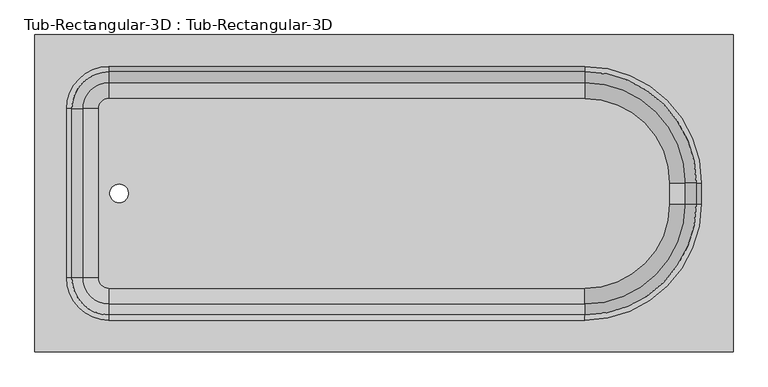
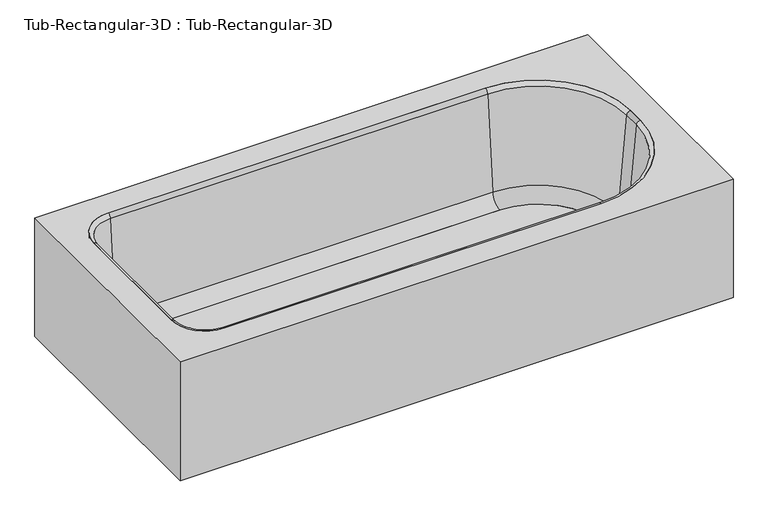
"""IFC4 building model written with IfcOpenShell, lengths in millimetres: flow terminal geometry, Tub-Rectangular-3D : Tub-Rectangular-3D."""

from ifc_helpers import new_model, si_unit, point, frame, frame_2d, origin, place, context, project, spatial, polyline, circle_curve, ellipse_curve, trimmed, segment, composite_curve, outline, extrude, source, transform, mapped, element, save
from ifc_brep_helpers import plane_surface, cylinder_surface, revolved_surface, advanced_brep


def tub_rectangular_3d_tub_rectangular_3d_b9fe3472(model_context):
    return source(origin(), model_context, "Body", "SolidModel", [
        advanced_brep(
        [(413.3970313, -762.0, 381.0), (413.3970313, 0.0, 381.0), (-1263.0029687, 0.0, 381.0), (-1263.0029687, -762.0, 381.0), (-1085.2029687, -685.8, 381.0), (-1186.8029687, -584.2, 381.0), (-1186.8029687, -177.8, 381.0), (-1085.2029687, -76.2, 381.0), (57.7970313, -76.2, 381.0), (337.1970313, -355.6, 381.0), (337.1970313, -406.4, 381.0), (57.7970313, -685.8, 381.0), (394.3470313, -742.95, 361.95), (-1243.9529687, -742.95, 361.95), (-1243.9529687, -19.05, 361.95), (394.3470313, -19.05, 361.95), (-1085.2029687, -685.8, 361.95), (57.7970313, -685.8, 361.95), (337.1970313, -406.4, 361.95), (337.1970313, -355.6, 361.95), (57.7970313, -76.2, 361.95), (-1085.2029687, -76.2, 361.95), (-1186.8029687, -177.8, 361.95), (-1186.8029687, -584.2, 361.95), (-1263.0029687, -762.0, 0.0), (413.3970313, -762.0, 0.0), (-1263.0029687, 0.0, 0.0), (413.3970313, 0.0, 0.0), (394.3470313, -742.95, 0.0), (394.3470313, -19.05, 0.0), (-1243.9529687, -19.05, 0.0), (-1243.9529687, -742.95, 0.0)],
        [
            (0, 1),
            (1, 2),
            (2, 3),
            (3, 0),
            (4, 5, circle_curve(frame((-1085.2029687, -584.2, 381.0), z_axis=(0.0, 0.0, -1.0), x_axis=(0.0, -1.0, 0.0)), 101.6)),
            (5, 6),
            (6, 7, circle_curve(frame((-1085.2029687, -177.8, 381.0), z_axis=(0.0, 0.0, -1.0), x_axis=(0.0, -1.0, 0.0)), 101.6)),
            (7, 8),
            (8, 9, circle_curve(frame((57.7970313, -355.6, 381.0), z_axis=(0.0, 0.0, -1.0), x_axis=(0.0, -1.0, 0.0)), 279.4)),
            (9, 10),
            (10, 11, circle_curve(frame((57.7970313, -406.4, 381.0), z_axis=(0.0, 0.0, -1.0), x_axis=(0.0, -1.0, 0.0)), 279.4)),
            (11, 4),
            (12, 13),
            (13, 14),
            (14, 15),
            (15, 12),
            (16, 17),
            (17, 18, circle_curve(frame((57.7970313, -406.4, 361.95), z_axis=(0.0, 0.0, 1.0), x_axis=(0.0, -1.0, 0.0)), 279.4)),
            (18, 19),
            (19, 20, circle_curve(frame((57.7970313, -355.6, 361.95), z_axis=(0.0, 0.0, 1.0), x_axis=(0.0, -1.0, 0.0)), 279.4)),
            (20, 21),
            (21, 22, circle_curve(frame((-1085.2029687, -177.8, 361.95), z_axis=(0.0, 0.0, 1.0), x_axis=(0.0, -1.0, 0.0)), 101.6)),
            (22, 23),
            (23, 16, circle_curve(frame((-1085.2029687, -584.2, 361.95), z_axis=(0.0, 0.0, 1.0), x_axis=(0.0, -1.0, 0.0)), 101.6)),
            (3, 24),
            (24, 25),
            (25, 0),
            (2, 26),
            (26, 24),
            (1, 27),
            (27, 26),
            (25, 27),
            (11, 17),
            (16, 4),
            (10, 18),
            (9, 19),
            (8, 20),
            (7, 21),
            (6, 22),
            (5, 23),
            (28, 29),
            (29, 30),
            (30, 31),
            (31, 28),
            (28, 12),
            (15, 29),
            (14, 30),
            (13, 31),
        ],
        [
            plane_surface(frame((-1263.0029687, -762.0, 381.0), z_axis=(0.0, 0.0, 1.0), x_axis=(-1.0, 0.0, 0.0))),
            plane_surface(frame((-1263.0029687, -762.0, 361.95), z_axis=(0.0, 0.0, -1.0), x_axis=(1.0, 0.0, 0.0))),
            plane_surface(frame((413.3970313, -762.0, 381.0), z_axis=(0.0, -1.0, 0.0), x_axis=(0.0, 0.0, -1.0))),
            plane_surface(frame((-1263.0029687, -762.0, 381.0), z_axis=(-1.0, 0.0, 0.0), x_axis=(0.0, 0.0, -1.0))),
            plane_surface(frame((-1263.0029687, 0.0, 381.0), z_axis=(0.0, 1.0, 0.0), x_axis=(0.0, 0.0, -1.0))),
            plane_surface(frame((413.3970313, 0.0, 381.0), z_axis=(1.0, 0.0, 0.0), x_axis=(0.0, 0.0, -1.0))),
            plane_surface(frame((-1085.2029687, -685.8, 381.0), z_axis=(0.0, 1.0, 0.0), x_axis=(0.0, 0.0, -1.0))),
            revolved_surface(polyline([(57.7970313, -685.8, 361.95), (57.7970313, -685.8, 381.0)]), (57.7970313, -406.4, 381.0), (0.0, 0.0, -1.0)),
            plane_surface(frame((337.1970313, -406.4, 381.0), z_axis=(-1.0, 0.0, 0.0), x_axis=(0.0, 0.0, -1.0))),
            revolved_surface(polyline([(57.7970313, -635.0, 361.95), (57.7970313, -635.0, 381.0)]), (57.7970313, -355.6, 381.0), (0.0, 0.0, -1.0)),
            plane_surface(frame((57.7970313, -76.2, 381.0), z_axis=(0.0, -1.0, 0.0), x_axis=(0.0, 0.0, -1.0))),
            revolved_surface(polyline([(-1085.2029687, -279.4, 361.95), (-1085.2029687, -279.4, 381.0)]), (-1085.2029687, -177.8, 381.0), (0.0, 0.0, -1.0)),
            plane_surface(frame((-1186.8029687, -177.8, 381.0), z_axis=(1.0, 0.0, 0.0), x_axis=(0.0, 0.0, -1.0))),
            revolved_surface(polyline([(-1085.2029687, -685.8000000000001, 361.95), (-1085.2029687, -685.8000000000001, 381.0)]), (-1085.2029687, -584.2, 381.0), (0.0, 0.0, -1.0)),
            plane_surface(frame((-1263.0029687, -762.0, 0.0), z_axis=(0.0, 0.0, -1.0), x_axis=(1.0, 0.0, 0.0))),
            plane_surface(frame((394.3470313, -742.95, 361.95), z_axis=(-1.0, 0.0, 0.0), x_axis=(0.0, 0.0, -1.0))),
            plane_surface(frame((394.3470313, -19.05, 361.95), z_axis=(0.0, -1.0, 0.0), x_axis=(0.0, 0.0, -1.0))),
            plane_surface(frame((-1243.9529687, -19.05, 361.95), z_axis=(1.0, 0.0, 0.0), x_axis=(0.0, 0.0, -1.0))),
            plane_surface(frame((-1243.9529687, -742.95, 361.95), z_axis=(0.0, 1.0, 0.0), x_axis=(0.0, 0.0, -1.0))),
        ],
        [
            (0, [[1, 2, 3, 4], [5, 6, 7, 8, 9, 10, 11, 12]]),
            (1, [[13, 14, 15, 16], [17, 18, 19, 20, 21, 22, 23, 24]]),
            (2, [[25, 26, 27, -4]]),
            (3, [[28, 29, -25, -3]]),
            (4, [[30, 31, -28, -2]]),
            (5, [[32, -30, -1, -27]]),
            (6, [[33, -17, 34, -12]]),
            (7, [[35, -18, -33, -11]]),
            (8, [[36, -19, -35, -10]]),
            (9, [[37, -20, -36, -9]]),
            (10, [[38, -21, -37, -8]]),
            (11, [[39, -22, -38, -7]]),
            (12, [[40, -23, -39, -6]]),
            (13, [[-34, -24, -40, -5]]),
            (14, [[-26, -29, -31, -32], [41, 42, 43, 44]]),
            (15, [[45, -16, 46, -41]]),
            (16, [[-46, -15, 47, -42]]),
            (17, [[-47, -14, 48, -43]]),
            (18, [[-48, -13, -45, -44]]),
        ],
    ),
        extrude(outline(composite_curve([segment(polyline([(57.7970313, -609.1964741), (-1085.2029687, -609.1964741)]), True, "CONTINUOUS"), segment(trimmed(circle_curve(frame_2d((-1085.2029687, -584.2)), 24.9964741), [point((-1085.2029687, -609.1964741))], [point((-1110.1994428, -584.2))], False, "CARTESIAN"), True, "CONTINUOUS"), segment(polyline([(-1110.1994428, -584.2), (-1110.1994428, -177.8)]), True, "CONTINUOUS"), segment(trimmed(circle_curve(frame_2d((-1085.2029687, -177.8)), 24.9964741), [point((-1110.1994428, -177.8))], [point((-1085.2029687, -152.8035259))], False, "CARTESIAN"), True, "CONTINUOUS"), segment(polyline([(-1085.2029687, -152.8035259), (57.7970313, -152.8035259)]), True, "CONTINUOUS"), segment(trimmed(circle_curve(frame_2d((57.7970313, -355.6)), 202.7964741), [point((57.7970313, -152.8035259))], [point((260.5935054, -355.6))], False, "CARTESIAN"), True, "CONTINUOUS"), segment(polyline([(260.5935054, -355.6), (260.5935054, -406.4)]), True, "CONTINUOUS"), segment(trimmed(circle_curve(frame_2d((57.7970313, -406.4)), 202.7964741), [point((260.5935054, -406.4))], [point((57.7970313, -609.1964741))], False, "CARTESIAN"), True, "CONTINUOUS")], self_intersect=False), holes=[composite_curve([segment(trimmed(circle_curve(frame_2d((-1060.910206, -381.0)), 22.225), [point((-1060.910206, -403.225))], [point((-1060.910206, -358.775))], True, "CARTESIAN"), True, "CONTINUOUS"), segment(trimmed(circle_curve(frame_2d((-1060.910206, -381.0)), 22.225), [point((-1060.910206, -358.775))], [point((-1060.910206, -403.225))], True, "CARTESIAN"), True, "CONTINUOUS")], self_intersect=False)]), frame((0.0, 0.0, 16.863573), z_axis=(0.0, 0.0, 1.0), x_axis=(1.0, 0.0, 0.0)), (0.0, 0.0, 1.0), 19.05),
        advanced_brep(
        [(-1148.1544608, -584.2, 70.6929392), (-1174.3249722, -584.2, 369.8232535), (-1085.2029687, -673.3220035, 369.8232535), (-1085.2029687, -647.1514921, 70.6929392), (-1110.1994428, -584.2, 35.913573), (-1085.2029687, -609.1964741, 35.913573), (-1110.1994428, -584.2, 16.863573), (-1085.2029687, -609.1964741, 16.863573), (-1186.8029687, -584.2, 16.863573), (-1085.2029687, -685.8, 16.863573), (-1186.8029687, -584.2, 381.0), (-1085.2029687, -685.8, 381.0), (-1148.1544608, -177.8, 70.6929392), (-1174.3249722, -177.8, 369.8232535), (-1110.1994428, -177.8, 35.913573), (-1110.1994428, -177.8, 16.863573), (-1186.8029687, -177.8, 16.863573), (-1186.8029687, -177.8, 381.0), (-1085.2029687, -114.8485079, 70.6929392), (-1085.2029687, -88.6779965, 369.8232535), (-1085.2029687, -152.8035259, 35.913573), (-1085.2029687, -152.8035259, 16.863573), (-1085.2029687, -76.2, 16.863573), (-1085.2029687, -76.2, 381.0), (57.7970313, -114.8485079, 70.6929392), (57.7970313, -88.6779965, 369.8232535), (57.7970313, -152.8035259, 35.913573), (57.7970313, -152.8035259, 16.863573), (57.7970313, -76.2, 16.863573), (57.7970313, -76.2, 381.0), (298.5485234, -355.6, 70.6929392), (324.7190348, -355.6, 369.8232535), (260.5935054, -355.6, 35.913573), (260.5935054, -355.6, 16.863573), (337.1970313, -355.6, 16.863573), (337.1970313, -355.6, 381.0), (298.5485234, -406.4, 70.6929392), (324.7190348, -406.4, 369.8232535), (260.5935054, -406.4, 35.913573), (260.5935054, -406.4, 16.863573), (337.1970313, -406.4, 16.863573), (337.1970313, -406.4, 381.0), (57.7970313, -647.1514921, 70.6929392), (57.7970313, -673.3220035, 369.8232535), (57.7970313, -609.1964741, 35.913573), (57.7970313, -609.1964741, 16.863573), (57.7970313, -685.8, 16.863573), (57.7970313, -685.8, 381.0)],
        [
            (0, 1),
            (1, 2, circle_curve(frame((-1085.2029687, -584.2, 369.8232535), z_axis=(0.0, 0.0, 1.0), x_axis=(0.0, -1.0, 0.0)), 89.1220035)),
            (2, 3),
            (3, 0, circle_curve(frame((-1085.2029687, -584.2, 70.6929392), z_axis=(0.0, 0.0, -1.0), x_axis=(0.0, -1.0, 0.0)), 62.9514921)),
            (4, 0, circle_curve(frame((-1110.1994428, -584.2, 74.013573), z_axis=(0.0, 1.0, 0.0), x_axis=(1.0, 0.0, 0.0)), 38.1)),
            (3, 5, circle_curve(frame((-1085.2029687, -609.1964741, 74.013573), z_axis=(1.0, 0.0, 0.0), x_axis=(0.0, 1.0, 0.0)), 38.1)),
            (5, 4, circle_curve(frame((-1085.2029687, -584.2, 35.913573), z_axis=(0.0, 0.0, -1.0), x_axis=(0.0, -1.0, 0.0)), 24.9964741)),
            (6, 4),
            (5, 7),
            (7, 6, circle_curve(frame((-1085.2029687, -584.2, 16.863573), z_axis=(0.0, 0.0, -1.0), x_axis=(0.0, -1.0, 0.0)), 24.9964741)),
            (8, 6),
            (7, 9),
            (9, 8, circle_curve(frame((-1085.2029687, -584.2, 16.863573), z_axis=(0.0, 0.0, -1.0), x_axis=(0.0, -1.0, 0.0)), 101.6)),
            (10, 8),
            (9, 11),
            (11, 10, circle_curve(frame((-1085.2029687, -584.2, 381.0), z_axis=(0.0, 0.0, -1.0), x_axis=(0.0, -1.0, 0.0)), 101.6)),
            (1, 10, circle_curve(frame((-1186.8029687, -584.2, 368.4462547), z_axis=(0.0, -1.0, 0.0), x_axis=(1.0, 0.0, 0.0)), 12.5537453)),
            (11, 2, circle_curve(frame((-1085.2029687, -685.8, 368.4462547), z_axis=(-1.0, 0.0, 0.0), x_axis=(0.0, 1.0, 0.0)), 12.5537453)),
            (0, 12),
            (12, 13),
            (13, 1),
            (4, 14),
            (14, 12, circle_curve(frame((-1110.1994428, -177.8, 74.013573), z_axis=(0.0, 1.0, 0.0), x_axis=(1.0, 0.0, 0.0)), 38.1)),
            (6, 15),
            (15, 14),
            (8, 16),
            (16, 15),
            (10, 17),
            (17, 16),
            (13, 17, circle_curve(frame((-1186.8029687, -177.8, 368.4462547), z_axis=(0.0, -1.0, 0.0), x_axis=(1.0, 0.0, 0.0)), 12.5537453)),
            (18, 19),
            (19, 13, circle_curve(frame((-1085.2029687, -177.8, 369.8232535), z_axis=(0.0, 0.0, 1.0), x_axis=(-1.0, 0.0, 0.0)), 89.1220035)),
            (12, 18, circle_curve(frame((-1085.2029687, -177.8, 70.6929392), z_axis=(0.0, 0.0, -1.0), x_axis=(-1.0, 0.0, 0.0)), 62.9514921)),
            (20, 18, circle_curve(frame((-1085.2029687, -152.8035259, 74.013573), z_axis=(1.0, 0.0, 0.0), x_axis=(0.0, -1.0, 0.0)), 38.1)),
            (14, 20, circle_curve(frame((-1085.2029687, -177.8, 35.913573), z_axis=(0.0, 0.0, -1.0), x_axis=(-1.0, 0.0, 0.0)), 24.9964741)),
            (21, 20),
            (15, 21, circle_curve(frame((-1085.2029687, -177.8, 16.863573), z_axis=(0.0, 0.0, -1.0), x_axis=(-1.0, 0.0, 0.0)), 24.9964741)),
            (22, 21),
            (16, 22, circle_curve(frame((-1085.2029687, -177.8, 16.863573), z_axis=(0.0, 0.0, -1.0), x_axis=(-1.0, 0.0, 0.0)), 101.6)),
            (23, 22),
            (17, 23, circle_curve(frame((-1085.2029687, -177.8, 381.0), z_axis=(0.0, 0.0, -1.0), x_axis=(-1.0, 0.0, 0.0)), 101.6)),
            (19, 23, circle_curve(frame((-1085.2029687, -76.2, 368.4462547), z_axis=(-1.0, 0.0, 0.0), x_axis=(0.0, -1.0, 0.0)), 12.5537453)),
            (18, 24),
            (24, 25),
            (25, 19),
            (20, 26),
            (26, 24, circle_curve(frame((57.7970313, -152.8035259, 74.013573), z_axis=(1.0, 0.0, 0.0), x_axis=(0.0, -1.0, 0.0)), 38.1)),
            (21, 27),
            (27, 26),
            (22, 28),
            (28, 27),
            (23, 29),
            (29, 28),
            (25, 29, circle_curve(frame((57.7970313, -76.2, 368.4462547), z_axis=(-1.0, 0.0, 0.0), x_axis=(0.0, -1.0, 0.0)), 12.5537453)),
            (30, 31),
            (31, 25, circle_curve(frame((57.7970313, -355.6, 369.8232535), z_axis=(0.0, 0.0, 1.0), x_axis=(0.0, 1.0, 0.0)), 266.9220035)),
            (24, 30, circle_curve(frame((57.7970313, -355.6, 70.6929392), z_axis=(0.0, 0.0, -1.0), x_axis=(0.0, 1.0, 0.0)), 240.7514921)),
            (32, 30, circle_curve(frame((260.5935054, -355.6, 74.013573), z_axis=(0.0, -1.0, 0.0), x_axis=(-1.0, 0.0, 0.0)), 38.1)),
            (26, 32, circle_curve(frame((57.7970313, -355.6, 35.913573), z_axis=(0.0, 0.0, -1.0), x_axis=(0.0, 1.0, 0.0)), 202.7964741)),
            (33, 32),
            (27, 33, circle_curve(frame((57.7970313, -355.6, 16.863573), z_axis=(0.0, 0.0, -1.0), x_axis=(0.0, 1.0, 0.0)), 202.7964741)),
            (34, 33),
            (28, 34, circle_curve(frame((57.7970313, -355.6, 16.863573), z_axis=(0.0, 0.0, -1.0), x_axis=(0.0, 1.0, 0.0)), 279.4)),
            (35, 34),
            (29, 35, circle_curve(frame((57.7970313, -355.6, 381.0), z_axis=(0.0, 0.0, -1.0), x_axis=(0.0, 1.0, 0.0)), 279.4)),
            (31, 35, circle_curve(frame((337.1970313, -355.6, 368.4462547), z_axis=(0.0, 1.0, 0.0), x_axis=(-1.0, 0.0, 0.0)), 12.5537453)),
            (30, 36),
            (36, 37),
            (37, 31),
            (32, 38),
            (38, 36, circle_curve(frame((260.5935054, -406.4, 74.013573), z_axis=(0.0, -1.0, 0.0), x_axis=(-1.0, 0.0, 0.0)), 38.1)),
            (33, 39),
            (39, 38),
            (34, 40),
            (40, 39),
            (35, 41),
            (41, 40),
            (37, 41, circle_curve(frame((337.1970313, -406.4, 368.4462547), z_axis=(0.0, 1.0, 0.0), x_axis=(-1.0, 0.0, 0.0)), 12.5537453)),
            (42, 43),
            (43, 37, circle_curve(frame((57.7970313, -406.4, 369.8232535), z_axis=(0.0, 0.0, 1.0), x_axis=(1.0, 0.0, 0.0)), 266.9220035)),
            (36, 42, circle_curve(frame((57.7970313, -406.4, 70.6929392), z_axis=(0.0, 0.0, -1.0), x_axis=(1.0, 0.0, 0.0)), 240.7514921)),
            (44, 42, circle_curve(frame((57.7970313, -609.1964741, 74.013573), z_axis=(-1.0, 0.0, 0.0), x_axis=(0.0, 1.0, 0.0)), 38.1)),
            (38, 44, circle_curve(frame((57.7970313, -406.4, 35.913573), z_axis=(0.0, 0.0, -1.0), x_axis=(1.0, 0.0, 0.0)), 202.7964741)),
            (45, 44),
            (39, 45, circle_curve(frame((57.7970313, -406.4, 16.863573), z_axis=(0.0, 0.0, -1.0), x_axis=(1.0, 0.0, 0.0)), 202.7964741)),
            (46, 45),
            (40, 46, circle_curve(frame((57.7970313, -406.4, 16.863573), z_axis=(0.0, 0.0, -1.0), x_axis=(1.0, 0.0, 0.0)), 279.4)),
            (47, 46),
            (41, 47, circle_curve(frame((57.7970313, -406.4, 381.0), z_axis=(0.0, 0.0, -1.0), x_axis=(1.0, 0.0, 0.0)), 279.4)),
            (43, 47, circle_curve(frame((57.7970313, -685.8, 368.4462547), z_axis=(1.0, 0.0, 0.0), x_axis=(0.0, 1.0, 0.0)), 12.5537453)),
            (42, 3),
            (2, 43),
            (44, 5),
            (45, 7),
            (46, 9),
            (47, 11),
        ],
        [
            revolved_surface(polyline([(-1085.2029687, -673.3220035, 369.8232535), (-1085.2029687, -647.1514921, 70.6929392)]), (-1085.2029687, -584.2, 381.0), (0.0, 0.0, 1.0)),
            revolved_surface(trimmed(ellipse_curve(frame((-1085.2029687, -609.1964741, 74.013573), z_axis=(1.0, 0.0, 0.0), x_axis=(0.0, 1.0, 0.0)), 38.1, 38.1), [point((-1085.2029687, -647.1514921, 70.6929392))], [point((-1085.2029687, -609.1964741, 35.913573))], True, "CARTESIAN"), (-1085.2029687, -584.2, 381.0), (0.0, 0.0, 1.0)),
            revolved_surface(polyline([(-1085.2029687, -609.1964741, 35.913572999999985), (-1085.2029687, -609.1964741, 16.863572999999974)]), (-1085.2029687, -584.2, 381.0), (0.0, 0.0, 1.0)),
            plane_surface(frame((-1085.2029687, -584.2, 16.863573), z_axis=(0.0, 0.0, -1.0), x_axis=(0.0, -1.0, 0.0))),
            cylinder_surface(frame((-1085.2029687, -584.2, 381.0), z_axis=(0.0, 0.0, 1.0), x_axis=(0.0, -1.0, 0.0)), 101.6),
            revolved_surface(trimmed(ellipse_curve(frame((-1085.2029687, -685.8, 368.4462547), z_axis=(-1.0, 0.0, 0.0), x_axis=(0.0, 1.0, 0.0)), 12.5537453, 12.5537453), [point((-1085.2029687, -685.8, 381.0))], [point((-1085.2029687, -673.3220035, 369.8232535))], True, "CARTESIAN"), (-1085.2029687, -584.2, 381.0), (0.0, 0.0, 1.0)),
            plane_surface(frame((-1174.3249722, -584.2, 369.8232535), z_axis=(0.9961946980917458, 0.0, 0.08715574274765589), x_axis=(0.0, 1.0, 0.0))),
            revolved_surface(polyline([(-1072.0994428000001, -177.8, 74.013573), (-1072.0994428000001, -584.2, 74.013573)]), (-1110.1994428, -584.2, 74.013573), (0.0, 1.0, 0.0)),
            plane_surface(frame((-1110.1994428, -584.2, 35.913573), z_axis=(1.0, 0.0, 0.0), x_axis=(0.0, 1.0, 0.0))),
            plane_surface(frame((-1110.1994428, -584.2, 16.863573), z_axis=(0.0, 0.0, -1.0), x_axis=(0.0, 1.0, 0.0))),
            plane_surface(frame((-1186.8029687, -584.2, 16.863573), z_axis=(-1.0, 0.0, 0.0), x_axis=(0.0, 1.0, 0.0))),
            cylinder_surface(frame((-1186.8029687, -584.2, 368.4462547), z_axis=(0.0, -1.0, 0.0), x_axis=(1.0, 0.0, 0.0)), 12.5537453),
            revolved_surface(polyline([(-1174.3249722, -177.8, 369.8232535), (-1148.1544608, -177.8, 70.6929392)]), (-1085.2029687, -177.8, 381.0), (0.0, 0.0, 1.0)),
            revolved_surface(trimmed(ellipse_curve(frame((-1110.1994428, -177.8, 74.013573), z_axis=(0.0, -1.0, 0.0), x_axis=(1.0, 0.0, 0.0)), 38.1, 38.1), [point((-1148.1544608, -177.8, 70.6929392))], [point((-1110.1994428, -177.8, 35.913573))], True, "CARTESIAN"), (-1085.2029687, -177.8, 381.0), (0.0, 0.0, 1.0)),
            revolved_surface(polyline([(-1110.1994427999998, -177.8, 35.913572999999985), (-1110.1994427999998, -177.8, 16.863572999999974)]), (-1085.2029687, -177.8, 381.0), (0.0, 0.0, 1.0)),
            plane_surface(frame((-1085.2029687, -177.8, 16.863573), z_axis=(0.0, 0.0, -1.0), x_axis=(-1.0, 0.0, 0.0))),
            cylinder_surface(frame((-1085.2029687, -177.8, 381.0), z_axis=(0.0, 0.0, 1.0), x_axis=(-1.0, 0.0, 0.0)), 101.6),
            revolved_surface(trimmed(ellipse_curve(frame((-1186.8029687, -177.8, 368.4462547), z_axis=(0.0, 1.0, 0.0), x_axis=(1.0, 0.0, 0.0)), 12.5537453, 12.5537453), [point((-1186.8029687, -177.8, 381.0))], [point((-1174.3249722, -177.8, 369.8232535))], True, "CARTESIAN"), (-1085.2029687, -177.8, 381.0), (0.0, 0.0, 1.0)),
            plane_surface(frame((-1085.2029687, -88.6779965, 369.8232535), z_axis=(0.0, -0.9961946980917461, 0.08715574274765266), x_axis=(1.0, 0.0, 0.0))),
            revolved_surface(polyline([(57.79703130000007, -190.9035259, 74.013573), (-1085.2029687, -190.9035259, 74.013573)]), (-1085.2029687, -152.8035259, 74.013573), (1.0, 0.0, 0.0)),
            plane_surface(frame((-1085.2029687, -152.8035259, 35.913573), z_axis=(0.0, -1.0, 0.0), x_axis=(1.0, 0.0, 0.0))),
            plane_surface(frame((-1085.2029687, -152.8035259, 16.863573), z_axis=(0.0, 0.0, -1.0), x_axis=(1.0, 0.0, 0.0))),
            plane_surface(frame((-1085.2029687, -76.2, 16.863573), z_axis=(0.0, 1.0, 0.0), x_axis=(1.0, 0.0, 0.0))),
            cylinder_surface(frame((-1085.2029687, -76.2, 368.4462547), z_axis=(-1.0, 0.0, 0.0), x_axis=(0.0, -1.0, 0.0)), 12.5537453),
            revolved_surface(polyline([(57.7970313, -88.6779965, 369.8232535), (57.7970313, -114.8485079, 70.6929392)]), (57.7970313, -355.6, 381.0), (0.0, 0.0, 1.0)),
            revolved_surface(trimmed(ellipse_curve(frame((57.7970313, -152.8035259, 74.013573), z_axis=(-1.0, 0.0, 0.0), x_axis=(0.0, -1.0, 0.0)), 38.1, 38.1), [point((57.7970313, -114.8485079, 70.6929392))], [point((57.7970313, -152.8035259, 35.913573))], True, "CARTESIAN"), (57.7970313, -355.6, 381.0), (0.0, 0.0, 1.0)),
            revolved_surface(polyline([(57.7970313, -152.8035259, 35.913572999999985), (57.7970313, -152.8035259, 16.863572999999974)]), (57.7970313, -355.6, 381.0), (0.0, 0.0, 1.0)),
            plane_surface(frame((57.7970313, -355.6, 16.863573), z_axis=(0.0, 0.0, -1.0), x_axis=(0.0, 1.0, 0.0))),
            cylinder_surface(frame((57.7970313, -355.6, 381.0), z_axis=(0.0, 0.0, 1.0), x_axis=(0.0, 1.0, 0.0)), 279.4),
            revolved_surface(trimmed(ellipse_curve(frame((57.7970313, -76.2, 368.4462547), z_axis=(1.0, 0.0, 0.0), x_axis=(0.0, -1.0, 0.0)), 12.5537453, 12.5537453), [point((57.7970313, -76.2, 381.0))], [point((57.7970313, -88.6779965, 369.8232535))], True, "CARTESIAN"), (57.7970313, -355.6, 381.0), (0.0, 0.0, 1.0)),
            plane_surface(frame((324.7190348, -355.6, 369.8232535), z_axis=(-0.9961946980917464, 0.0, 0.08715574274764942), x_axis=(0.0, -1.0, 0.0))),
            revolved_surface(polyline([(222.49350540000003, -406.4, 74.013573), (222.49350540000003, -355.6, 74.013573)]), (260.5935054, -355.6, 74.013573), (0.0, -1.0, 0.0)),
            plane_surface(frame((260.5935054, -355.6, 35.913573), z_axis=(-1.0, 0.0, 0.0), x_axis=(0.0, -1.0, 0.0))),
            plane_surface(frame((260.5935054, -355.6, 16.863573), z_axis=(0.0, 0.0, -1.0), x_axis=(0.0, -1.0, 0.0))),
            plane_surface(frame((337.1970313, -355.6, 16.863573), z_axis=(1.0, 0.0, 0.0), x_axis=(0.0, -1.0, 0.0))),
            cylinder_surface(frame((337.1970313, -355.6, 368.4462547), z_axis=(0.0, 1.0, 0.0), x_axis=(-1.0, 0.0, 0.0)), 12.5537453),
            revolved_surface(polyline([(324.7190348, -406.4, 369.8232535), (298.5485234, -406.4, 70.6929392)]), (57.7970313, -406.4, 381.0), (0.0, 0.0, 1.0)),
            revolved_surface(trimmed(ellipse_curve(frame((260.5935054, -406.4, 74.013573), z_axis=(0.0, 1.0, 0.0), x_axis=(-1.0, 0.0, 0.0)), 38.1, 38.1), [point((298.5485234, -406.4, 70.6929392))], [point((260.5935054, -406.4, 35.913573))], True, "CARTESIAN"), (57.7970313, -406.4, 381.0), (0.0, 0.0, 1.0)),
            revolved_surface(polyline([(260.5935054, -406.4, 35.913572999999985), (260.5935054, -406.4, 16.863572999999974)]), (57.7970313, -406.4, 381.0), (0.0, 0.0, 1.0)),
            plane_surface(frame((57.7970313, -406.4, 16.863573), z_axis=(0.0, 0.0, -1.0), x_axis=(1.0, 0.0, 0.0))),
            cylinder_surface(frame((57.7970313, -406.4, 381.0), z_axis=(0.0, 0.0, 1.0), x_axis=(1.0, 0.0, 0.0)), 279.4),
            revolved_surface(trimmed(ellipse_curve(frame((337.1970313, -406.4, 368.4462547), z_axis=(0.0, -1.0, 0.0), x_axis=(-1.0, 0.0, 0.0)), 12.5537453, 12.5537453), [point((337.1970313, -406.4, 381.0))], [point((324.7190348, -406.4, 369.8232535))], True, "CARTESIAN"), (57.7970313, -406.4, 381.0), (0.0, 0.0, 1.0)),
            plane_surface(frame((57.7970313, -673.3220035, 369.8232535), z_axis=(0.0, 0.9961946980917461, 0.08715574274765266), x_axis=(-1.0, 0.0, 0.0))),
            revolved_surface(polyline([(-1085.2029687, -571.0964741, 74.013573), (57.7970313, -571.0964741, 74.013573)]), (57.7970313, -609.1964741, 74.013573), (-1.0, 0.0, 0.0)),
            plane_surface(frame((57.7970313, -609.1964741, 35.913573), z_axis=(0.0, 1.0, 0.0), x_axis=(-1.0, 0.0, 0.0))),
            plane_surface(frame((57.7970313, -609.1964741, 16.863573), z_axis=(0.0, 0.0, -1.0), x_axis=(-1.0, 0.0, 0.0))),
            plane_surface(frame((57.7970313, -685.8, 16.863573), z_axis=(0.0, -1.0, 0.0), x_axis=(-1.0, 0.0, 0.0))),
            cylinder_surface(frame((57.7970313, -685.8, 368.4462547), z_axis=(1.0, 0.0, 0.0), x_axis=(0.0, 1.0, 0.0)), 12.5537453),
        ],
        [
            (0, [[1, 2, 3, 4]]),
            (1, [[5, -4, 6, 7]]),
            (2, [[8, -7, 9, 10]]),
            (3, [[11, -10, 12, 13]]),
            (4, [[14, -13, 15, 16]]),
            (5, [[17, -16, 18, -2]]),
            (6, [[19, 20, 21, -1]]),
            (7, [[22, 23, -19, -5]]),
            (8, [[24, 25, -22, -8]]),
            (9, [[26, 27, -24, -11]]),
            (10, [[28, 29, -26, -14]]),
            (11, [[-21, 30, -28, -17]]),
            (12, [[31, 32, -20, 33]]),
            (13, [[34, -33, -23, 35]]),
            (14, [[36, -35, -25, 37]]),
            (15, [[38, -37, -27, 39]]),
            (16, [[40, -39, -29, 41]]),
            (17, [[42, -41, -30, -32]]),
            (18, [[43, 44, 45, -31]]),
            (19, [[46, 47, -43, -34]]),
            (20, [[48, 49, -46, -36]]),
            (21, [[50, 51, -48, -38]]),
            (22, [[52, 53, -50, -40]]),
            (23, [[-45, 54, -52, -42]]),
            (24, [[55, 56, -44, 57]]),
            (25, [[58, -57, -47, 59]]),
            (26, [[60, -59, -49, 61]]),
            (27, [[62, -61, -51, 63]]),
            (28, [[64, -63, -53, 65]]),
            (29, [[66, -65, -54, -56]]),
            (30, [[67, 68, 69, -55]]),
            (31, [[70, 71, -67, -58]]),
            (32, [[72, 73, -70, -60]]),
            (33, [[74, 75, -72, -62]]),
            (34, [[76, 77, -74, -64]]),
            (35, [[-69, 78, -76, -66]]),
            (36, [[79, 80, -68, 81]]),
            (37, [[82, -81, -71, 83]]),
            (38, [[84, -83, -73, 85]]),
            (39, [[86, -85, -75, 87]]),
            (40, [[88, -87, -77, 89]]),
            (41, [[90, -89, -78, -80]]),
            (42, [[91, -3, 92, -79]]),
            (43, [[93, -6, -91, -82]]),
            (44, [[94, -9, -93, -84]]),
            (45, [[95, -12, -94, -86]]),
            (46, [[96, -15, -95, -88]]),
            (47, [[-92, -18, -96, -90]]),
        ],
    ),
    ])


if __name__ == "__main__":
    model = new_model("IFC4")
    model_context = context("Model", 3, world=origin())
    ifc_project = project(units=[si_unit("LENGTHUNIT", "METRE", prefix="MILLI")], contexts=[model_context])
    site = spatial("IfcSite", under=ifc_project)
    building = spatial("IfcBuilding", under=site)
    placement = place(None, origin())
    tub_rectangular_3d_tub_rectangular_3d_shape = tub_rectangular_3d_tub_rectangular_3d_b9fe3472(model_context)
    element("IfcFlowTerminal", 1, ObjectType="Tub-Rectangular-3D : Tub-Rectangular-3D", at=placement, inside=building, context=model_context, shape_type="MappedRepresentation", body=[
        mapped(tub_rectangular_3d_tub_rectangular_3d_shape, transform((0.0, 0.0, 0.0), x_axis=(1.0, 0.0, 0.0), y_axis=(0.0, 1.0, 0.0), z_axis=(0.0, 0.0, 1.0))),
    ])
    save(model, "model.ifc")
